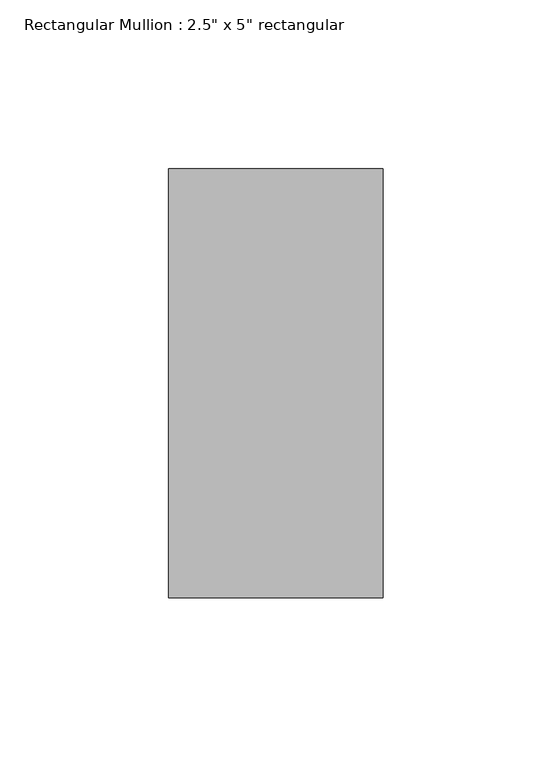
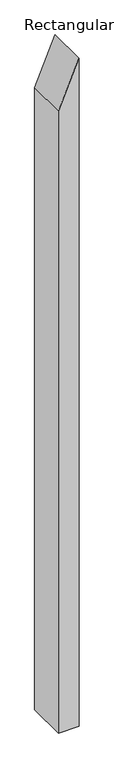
"""IFC4 building model written with IfcOpenShell, lengths in millimetres: member geometry."""

from ifc_helpers import new_model, si_unit, frame, origin, place, context, project, spatial, polyline, outline, extrude, source, transform, mapped, element, save


def member_190da285(model_context):
    return source(origin(), model_context, "Body", "SweptSolid", [
        extrude(outline(polyline([(0.0, 0.0), (-150.0761281, -63.5), (-2185.8060871, -63.5), (-2185.8060871, 0.0), (0.0, 0.0)])), frame((0.0, -63.5, 0.0), z_axis=(0.0, 1.0, 0.0), x_axis=(0.0, 0.0, 1.0)), (0.0, 0.0, 1.0), 127.0),
    ])


if __name__ == "__main__":
    model = new_model("IFC4")
    model_context = context("Model", 3, world=origin())
    ifc_project = project(units=[si_unit("LENGTHUNIT", "METRE", prefix="MILLI")], contexts=[model_context])
    site = spatial("IfcSite", under=ifc_project)
    building = spatial("IfcBuilding", under=site)
    placement = place(None, origin())
    member_shape = member_190da285(model_context)
    element("IfcMember", 1, ObjectType="Rectangular Mullion : 2.5\" x 5\" rectangular", at=placement, inside=building, context=model_context, shape_type="MappedRepresentation", body=[
        mapped(member_shape, transform((0.0, 0.0, 0.0), x_axis=(1.0, 0.0, 0.0), y_axis=(0.0, 1.0, 0.0), z_axis=(0.0, 0.0, 1.0))),
    ])
    save(model, "model.ifc")
